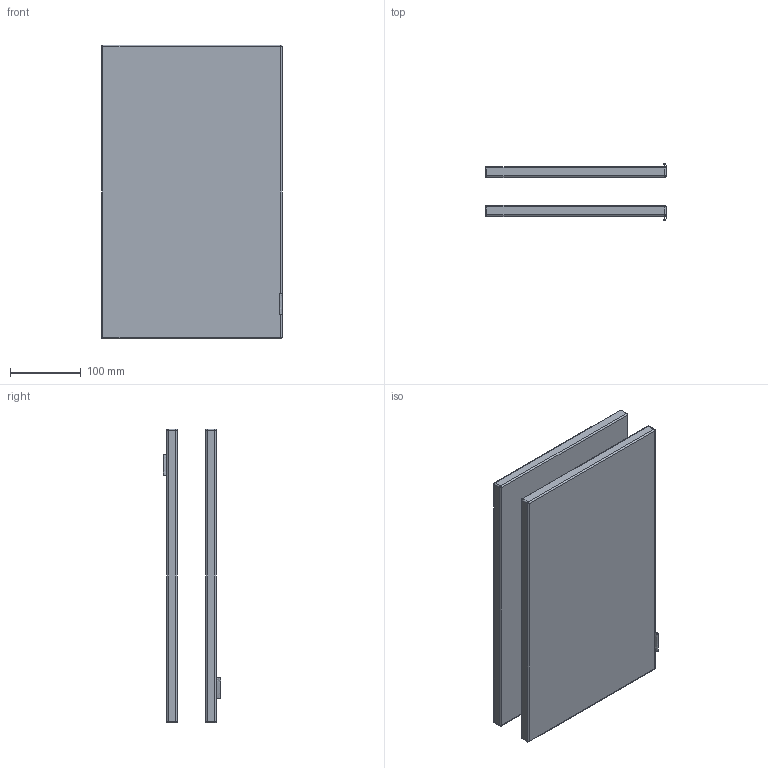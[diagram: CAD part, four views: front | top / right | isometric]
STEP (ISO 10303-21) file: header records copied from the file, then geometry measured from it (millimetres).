
FILE_DESCRIPTION ((), '1');
FILE_NAME ('C:\D\DESING\TABLE DESK PROJECT\MODESK WEB\3D MODELY KE STAZENI\PRISLUSENSTVI\VYPLN.stp', '2019-08-02T13:49:01', ('Unknown'), ('Unknown'), 'HarmonyWare STEP v1.4.3', 'HarmonyWare Translators', '');
FILE_SCHEMA (('CONFIG_CONTROL_DESIGN'));
Length unit declared in the file: millimetre
Products named in the file (36): MODESK_EXECUTIVE_1800 + KONTEJNER L
Bounding box: 255.59 x 80.97 x 415 mm (x, y, z)
Volume: 3170423 mm3; surface area: 461962.4 mm2
Topology: 4 solids, 36 shells, 232 faces, 760 edges, 532 vertices
Faces by surface type: bspline 232
Entity records: 27282 total; most frequent: CARTESIAN_POINT 19798, ORIENTED_EDGE 1020, EDGE_CURVE 744, B_SPLINE_CURVE_WITH_KNOTS 648, VERTEX_POINT 532, PERSON 288, ORGANIZATION 288, PERSON_AND_ORGANIZATION 288
